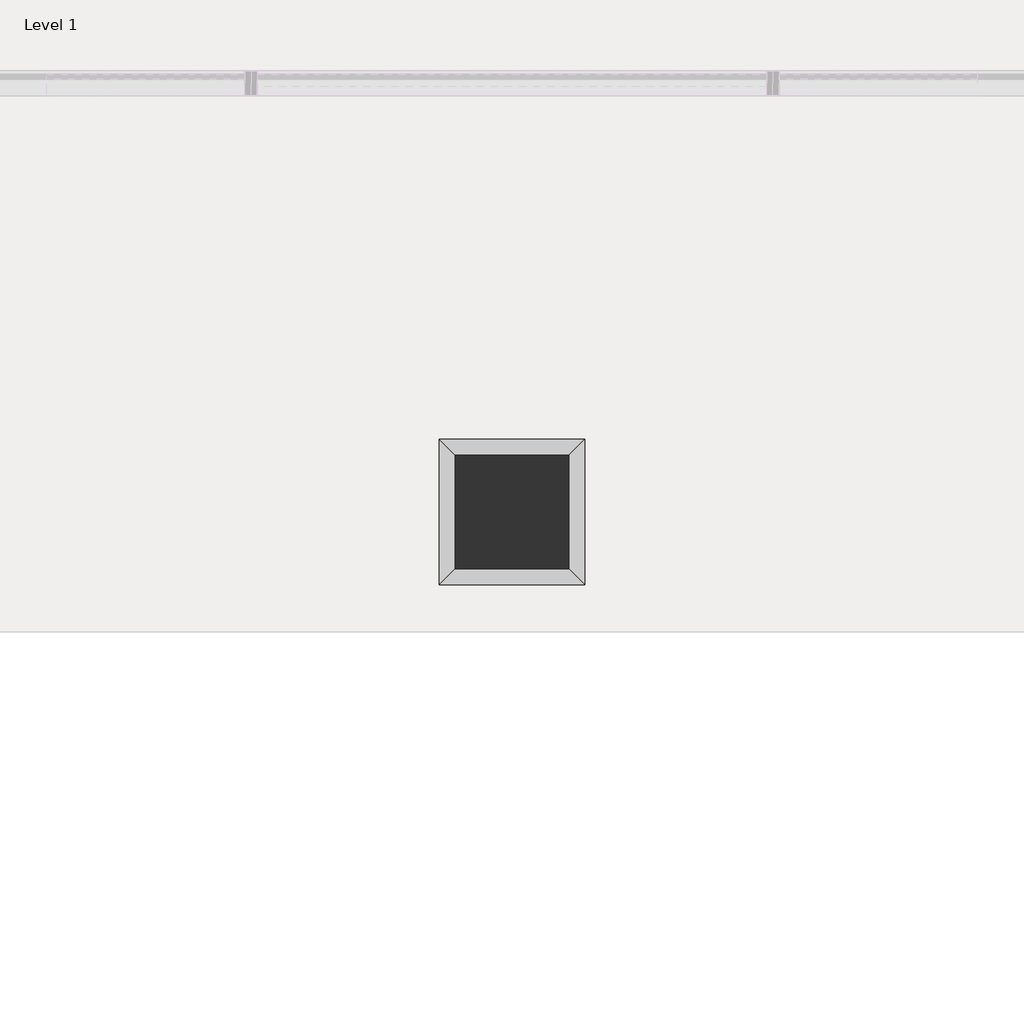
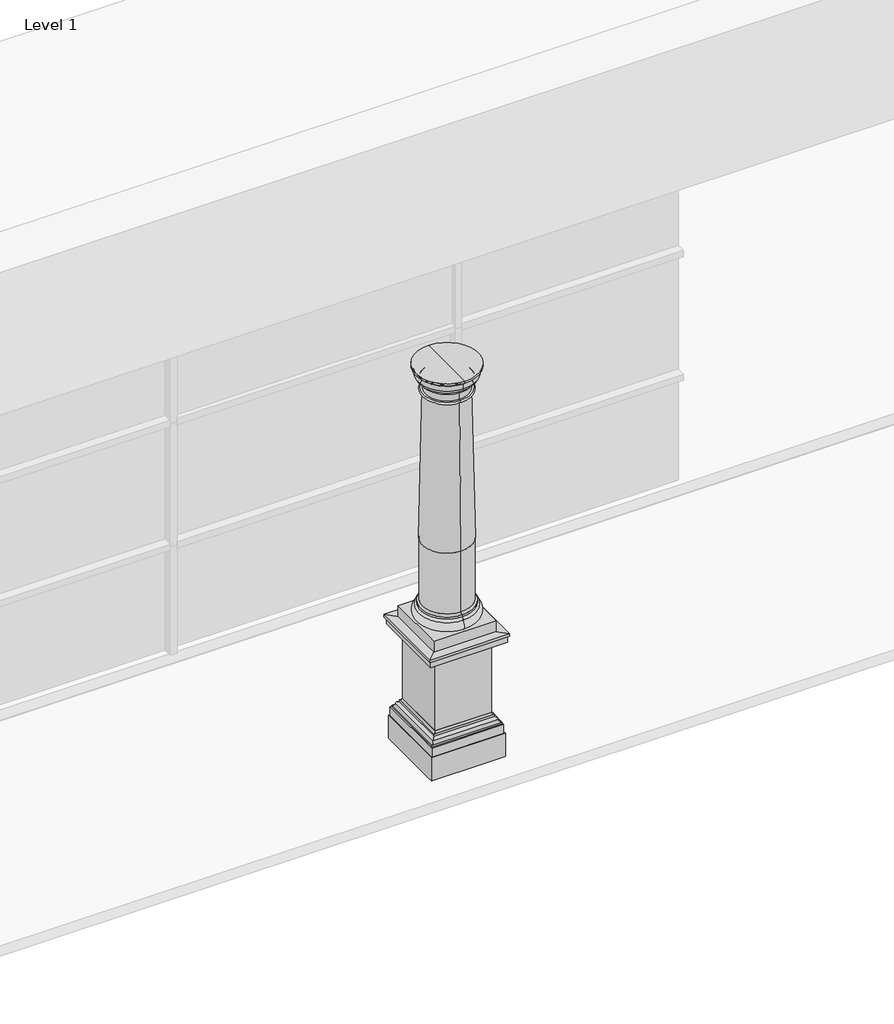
# One storey, part 5 of 8: 1 column.
"""IFC4 building model written with IfcOpenShell, lengths in millimetres."""

from ifc_helpers import new_model, si_unit, point, frame, origin, place, context, project, spatial, polyline, circle_curve, ellipse_curve, trimmed, outline, extrude, faceted_brep, element, save
from ifc_brep_helpers import plane_surface, cylinder_surface, revolved_surface, advanced_brep

model = new_model("IFC4")

# Units and contexts
model_context = context("Model", 3, world=origin())
ifc_project = project(units=[si_unit("LENGTHUNIT", "METRE", prefix="MILLI")], contexts=[model_context])

# Site, building, storey
site = spatial("IfcSite", under=ifc_project)
building = spatial("IfcBuilding", under=site)
storey = spatial("IfcBuildingStorey", under=building, Name="Level 1", Elevation=0.0)

# Column
placement = place(None, origin())
element("IfcColumn", 1, ObjectType="Doric Column : 16'  Height (10 2/3 x Dia.)", at=placement, inside=storey, context=model_context, shape_type="SolidModel", body=[
    extrude(outline(polyline([(5363.9045948, -1720.0769576), (5363.9045948, -2297.9269576), (4786.0545948, -2297.9269576), (4786.0545948, -1720.0769576), (5363.9045948, -1720.0769576)])), frame((0.0, 0.0, 1117.6), z_axis=(0.0, 0.0, 1.0), x_axis=(1.0, 0.0, 0.0)), (0.0, 0.0, 1.0), 107.95),
    faceted_brep([(4846.3795948, -2237.6019576, 1117.6), (4703.5045948, -2380.4769576, 1117.6), (5446.4545948, -2380.4769576, 1117.6), (5303.5795948, -2237.6019576, 1117.6), (4846.3795948, -2237.6019576, 1003.3), (5303.5795948, -2237.6019576, 1003.3), (4775.0966777, -2308.8848746, 1003.3), (5374.8625119, -2308.8848746, 1003.3), (4741.6045948, -2342.3769576, 1028.7), (5408.3545948, -2342.3769576, 1028.7), (4716.2045948, -2367.7769576, 1028.7), (5433.7545948, -2367.7769576, 1028.7), (4716.2045948, -2367.7769576, 1092.2), (5433.7545948, -2367.7769576, 1092.2), (4703.5045948, -2380.4769576, 1092.2), (5446.4545948, -2380.4769576, 1092.2), (5446.4545948, -1637.5269576, 1117.6), (5303.5795948, -1780.4019576, 1117.6), (5303.5795948, -1780.4019576, 1003.3), (5374.8625119, -1709.1190405, 1003.3), (5408.3545948, -1675.6269576, 1028.7), (5433.7545948, -1650.2269576, 1028.7), (5433.7545948, -1650.2269576, 1092.2), (5446.4545948, -1637.5269576, 1092.2), (4703.5045948, -1637.5269576, 1117.6), (4846.3795948, -1780.4019576, 1117.6), (4846.3795948, -1780.4019576, 1003.3), (4775.0966777, -1709.1190405, 1003.3), (4741.6045948, -1675.6269576, 1028.7), (4716.2045948, -1650.2269576, 1028.7), (4716.2045948, -1650.2269576, 1092.2), (4703.5045948, -1637.5269576, 1092.2)], [[[0, 1, 2, 3]], [[4, 0, 3, 5]], [[6, 4, 5, 7]], [[8, 6, 7, 9]], [[10, 8, 9, 11]], [[12, 10, 11, 13]], [[14, 12, 13, 15]], [[1, 14, 15, 2]], [[3, 2, 16, 17]], [[5, 3, 17, 18]], [[7, 5, 18, 19]], [[9, 7, 19, 20]], [[11, 9, 20, 21]], [[13, 11, 21, 22]], [[15, 13, 22, 23]], [[2, 15, 23, 16]], [[17, 16, 24, 25]], [[18, 17, 25, 26]], [[19, 18, 26, 27]], [[20, 19, 27, 28]], [[21, 20, 28, 29]], [[22, 21, 29, 30]], [[23, 22, 30, 31]], [[16, 23, 31, 24]], [[25, 24, 1, 0]], [[26, 25, 0, 4]], [[27, 26, 4, 6]], [[28, 27, 6, 8]], [[29, 28, 8, 10]], [[30, 29, 10, 12]], [[31, 30, 12, 14]], [[24, 31, 14, 1]]]),
    advanced_brep(
    [(5074.9795948, -2256.6519576, 1358.9), (5074.9795948, -1761.3519576, 1358.9), (5074.9795948, -1780.4019576, 1377.95), (5074.9795948, -2237.6019576, 1377.95), (5074.9795948, -1780.4019576, 1976.1708333), (5074.9795948, -2237.6019576, 1976.1708333), (5074.9795948, -2256.6519576, 1339.85), (5074.9795948, -1761.3519576, 1339.85), (5074.9795948, -2256.6519576, 1308.1), (5074.9795948, -1761.3519576, 1308.1), (5074.9795948, -2256.6519576, 1225.55), (5074.9795948, -1761.3519576, 1225.55), (5074.9795948, -2009.0019576, 1225.55), (5074.9795948, -1808.9769576, 3439.3125), (5074.9795948, -2209.0269576, 3439.3125), (5074.9795948, -2301.1019576, 3674.2625601), (5074.9795948, -1716.9019576, 3674.2625601), (5074.9795948, -1716.9019576, 3693.3125), (5074.9795948, -2301.1019576, 3693.3125), (5074.9795948, -2009.0019576, 3693.3125), (5074.9795948, -2282.0518974, 3655.2125), (5074.9795948, -1735.9520177, 3655.2125), (5074.9795948, -2278.8769576, 3655.2125), (5074.9795948, -1739.1269576, 3655.2125), (5074.9795948, -2278.8769576, 3604.4125), (5074.9795948, -1739.1269576, 3604.4125), (5074.9795948, -2272.5269576, 3604.4125), (5074.9795948, -1745.4769576, 3604.4125), (5074.9795948, -2228.0769576, 3559.9625), (5074.9795948, -1789.9269576, 3559.9625), (5074.9795948, -2228.0769576, 3540.9125), (5074.9795948, -1789.9269576, 3540.9125), (5074.9795948, -2209.0269576, 3540.9125), (5074.9795948, -1808.9769576, 3540.9125), (5074.9795948, -2209.0269576, 3458.3625), (5074.9795948, -1808.9769576, 3458.3625), (5074.9795948, -2228.0769576, 3458.3625), (5074.9795948, -1789.9269576, 3458.3625), (5074.9795948, -2228.0769576, 3439.3125), (5074.9795948, -1789.9269576, 3439.3125)],
    [
        (0, 1, circle_curve(frame((5074.9795948, -2009.0019576, 1358.9), z_axis=(0.0, 0.0, 1.0), x_axis=(0.0, 1.0, 0.0)), 247.65)),
        (1, 2, circle_curve(frame((5074.9795948, -1761.3519576, 1377.95), z_axis=(-1.0, 0.0, 0.0), x_axis=(0.0, -1.0, 0.0)), 19.05)),
        (2, 3, circle_curve(frame((5074.9795948, -2009.0019576, 1377.95), z_axis=(0.0, 0.0, -1.0), x_axis=(0.0, 1.0, 0.0)), 228.6)),
        (3, 0, circle_curve(frame((5074.9795948, -2256.6519576, 1377.95), z_axis=(-1.0, 0.0, 0.0), x_axis=(0.0, 1.0, 0.0)), 19.05)),
        (2, 4),
        (4, 5, circle_curve(frame((5074.9795948, -2009.0019576, 1976.1708333), z_axis=(0.0, 0.0, -1.0), x_axis=(0.0, 1.0, 0.0)), 228.6)),
        (5, 3),
        (2, 3, circle_curve(frame((5074.9795948, -2009.0019576, 1377.95), z_axis=(0.0, 0.0, 1.0), x_axis=(0.0, 1.0, 0.0)), 228.6)),
        (5, 4, circle_curve(frame((5074.9795948, -2009.0019576, 1976.1708333), z_axis=(0.0, 0.0, -1.0), x_axis=(0.0, 1.0, 0.0)), 228.6)),
        (1, 0, circle_curve(frame((5074.9795948, -2009.0019576, 1358.9), z_axis=(0.0, 0.0, 1.0), x_axis=(0.0, 1.0, 0.0)), 247.65)),
        (6, 7, circle_curve(frame((5074.9795948, -2009.0019576, 1339.85), z_axis=(0.0, 0.0, 1.0), x_axis=(0.0, 1.0, 0.0)), 247.65)),
        (7, 1),
        (0, 6),
        (7, 6, circle_curve(frame((5074.9795948, -2009.0019576, 1339.85), z_axis=(0.0, 0.0, 1.0), x_axis=(0.0, 1.0, 0.0)), 247.65)),
        (8, 9, circle_curve(frame((5074.9795948, -2009.0019576, 1308.1), z_axis=(0.0, 0.0, 1.0), x_axis=(0.0, 1.0, 0.0)), 247.65)),
        (9, 7, circle_curve(frame((5074.9795948, -1761.3519576, 1323.975), z_axis=(1.0, 0.0, 0.0), x_axis=(0.0, -1.0, 0.0)), 15.875)),
        (6, 8, circle_curve(frame((5074.9795948, -2256.6519576, 1323.975), z_axis=(1.0, 0.0, 0.0), x_axis=(0.0, 1.0, 0.0)), 15.875)),
        (9, 8, circle_curve(frame((5074.9795948, -2009.0019576, 1308.1), z_axis=(0.0, 0.0, 1.0), x_axis=(0.0, 1.0, 0.0)), 247.65)),
        (10, 11, circle_curve(frame((5074.9795948, -2009.0019576, 1225.55), z_axis=(0.0, 0.0, 1.0), x_axis=(0.0, 1.0, 0.0)), 247.65)),
        (11, 9, circle_curve(frame((5074.9795948, -1761.3519576, 1266.825), z_axis=(1.0, 0.0, 0.0), x_axis=(0.0, -1.0, 0.0)), 41.275)),
        (8, 10, circle_curve(frame((5074.9795948, -2256.6519576, 1266.825), z_axis=(1.0, 0.0, 0.0), x_axis=(0.0, 1.0, 0.0)), 41.275)),
        (11, 10, circle_curve(frame((5074.9795948, -2009.0019576, 1225.55), z_axis=(0.0, 0.0, 1.0), x_axis=(0.0, 1.0, 0.0)), 247.65)),
        (12, 11),
        (10, 12),
        (4, 13),
        (13, 14, circle_curve(frame((5074.9795948, -2009.0019576, 3439.3125), z_axis=(0.0, 0.0, -1.0), x_axis=(0.0, 1.0, 0.0)), 200.025)),
        (14, 5),
        (14, 13, circle_curve(frame((5074.9795948, -2009.0019576, 3439.3125), z_axis=(0.0, 0.0, -1.0), x_axis=(0.0, 1.0, 0.0)), 200.025)),
        (15, 16, circle_curve(frame((5074.9795948, -2009.0019576, 3674.2625601), z_axis=(0.0, 0.0, 1.0), x_axis=(0.0, 1.0, 0.0)), 292.1)),
        (16, 17),
        (17, 18, circle_curve(frame((5074.9795948, -2009.0019576, 3693.3125), z_axis=(0.0, 0.0, -1.0), x_axis=(0.0, 1.0, 0.0)), 292.1)),
        (18, 15),
        (17, 19),
        (19, 18),
        (17, 18, circle_curve(frame((5074.9795948, -2009.0019576, 3693.3125), z_axis=(0.0, 0.0, 1.0), x_axis=(0.0, 1.0, 0.0)), 292.1)),
        (16, 15, circle_curve(frame((5074.9795948, -2009.0019576, 3674.2625601), z_axis=(0.0, 0.0, 1.0), x_axis=(0.0, 1.0, 0.0)), 292.1)),
        (20, 21, circle_curve(frame((5074.9795948, -2009.0019576, 3655.2125), z_axis=(0.0, 0.0, 1.0), x_axis=(0.0, 1.0, 0.0)), 273.0499399)),
        (21, 16, circle_curve(frame((5074.9795948, -1716.9019576, 3655.2125), z_axis=(-1.0, 0.0, 0.0), x_axis=(0.0, -1.0, 0.0)), 19.0500601)),
        (15, 20, circle_curve(frame((5074.9795948, -2301.1019576, 3655.2125), z_axis=(-1.0, 0.0, 0.0), x_axis=(0.0, 1.0, 0.0)), 19.0500601)),
        (21, 20, circle_curve(frame((5074.9795948, -2009.0019576, 3655.2125), z_axis=(0.0, 0.0, 1.0), x_axis=(0.0, 1.0, 0.0)), 273.0499399)),
        (22, 23, circle_curve(frame((5074.9795948, -2009.0019576, 3655.2125), z_axis=(0.0, 0.0, 1.0), x_axis=(0.0, 1.0, 0.0)), 269.875)),
        (23, 21),
        (20, 22),
        (23, 22, circle_curve(frame((5074.9795948, -2009.0019576, 3655.2125), z_axis=(0.0, 0.0, 1.0), x_axis=(0.0, 1.0, 0.0)), 269.875)),
        (24, 25, circle_curve(frame((5074.9795948, -2009.0019576, 3604.4125), z_axis=(0.0, 0.0, 1.0), x_axis=(0.0, 1.0, 0.0)), 269.875)),
        (25, 23),
        (22, 24),
        (25, 24, circle_curve(frame((5074.9795948, -2009.0019576, 3604.4125), z_axis=(0.0, 0.0, 1.0), x_axis=(0.0, 1.0, 0.0)), 269.875)),
        (26, 27, circle_curve(frame((5074.9795948, -2009.0019576, 3604.4125), z_axis=(0.0, 0.0, 1.0), x_axis=(0.0, 1.0, 0.0)), 263.525)),
        (27, 25),
        (24, 26),
        (27, 26, circle_curve(frame((5074.9795948, -2009.0019576, 3604.4125), z_axis=(0.0, 0.0, 1.0), x_axis=(0.0, 1.0, 0.0)), 263.525)),
        (28, 29, circle_curve(frame((5074.9795948, -2009.0019576, 3559.9625), z_axis=(0.0, 0.0, 1.0), x_axis=(0.0, 1.0, 0.0)), 219.075)),
        (29, 27, circle_curve(frame((5074.9795948, -1789.9269576, 3604.4125), z_axis=(1.0, 0.0, 0.0), x_axis=(0.0, -1.0, 0.0)), 44.45)),
        (26, 28, circle_curve(frame((5074.9795948, -2228.0769576, 3604.4125), z_axis=(1.0, 0.0, 0.0), x_axis=(0.0, 1.0, 0.0)), 44.45)),
        (29, 28, circle_curve(frame((5074.9795948, -2009.0019576, 3559.9625), z_axis=(0.0, 0.0, 1.0), x_axis=(0.0, 1.0, 0.0)), 219.075)),
        (30, 31, circle_curve(frame((5074.9795948, -2009.0019576, 3540.9125), z_axis=(0.0, 0.0, 1.0), x_axis=(0.0, 1.0, 0.0)), 219.075)),
        (31, 29, circle_curve(frame((5074.9795948, -1789.9269576, 3550.4375), z_axis=(1.0, 0.0, 0.0), x_axis=(0.0, -1.0, 0.0)), 9.525)),
        (28, 30, circle_curve(frame((5074.9795948, -2228.0769576, 3550.4375), z_axis=(1.0, 0.0, 0.0), x_axis=(0.0, 1.0, 0.0)), 9.525)),
        (31, 30, circle_curve(frame((5074.9795948, -2009.0019576, 3540.9125), z_axis=(0.0, 0.0, 1.0), x_axis=(0.0, 1.0, 0.0)), 219.075)),
        (32, 33, circle_curve(frame((5074.9795948, -2009.0019576, 3540.9125), z_axis=(0.0, 0.0, 1.0), x_axis=(0.0, 1.0, 0.0)), 200.025)),
        (33, 31),
        (30, 32),
        (33, 32, circle_curve(frame((5074.9795948, -2009.0019576, 3540.9125), z_axis=(0.0, 0.0, 1.0), x_axis=(0.0, 1.0, 0.0)), 200.025)),
        (34, 35, circle_curve(frame((5074.9795948, -2009.0019576, 3458.3625), z_axis=(0.0, 0.0, 1.0), x_axis=(0.0, 1.0, 0.0)), 200.025)),
        (35, 33),
        (32, 34),
        (35, 34, circle_curve(frame((5074.9795948, -2009.0019576, 3458.3625), z_axis=(0.0, 0.0, 1.0), x_axis=(0.0, 1.0, 0.0)), 200.025)),
        (36, 37, circle_curve(frame((5074.9795948, -2009.0019576, 3458.3625), z_axis=(0.0, 0.0, 1.0), x_axis=(0.0, 1.0, 0.0)), 219.075)),
        (37, 35),
        (34, 36),
        (37, 36, circle_curve(frame((5074.9795948, -2009.0019576, 3458.3625), z_axis=(0.0, 0.0, 1.0), x_axis=(0.0, 1.0, 0.0)), 219.075)),
        (38, 39, circle_curve(frame((5074.9795948, -2009.0019576, 3439.3125), z_axis=(0.0, 0.0, 1.0), x_axis=(0.0, 1.0, 0.0)), 219.075)),
        (39, 37, circle_curve(frame((5074.9795948, -1789.9269576, 3448.8375), z_axis=(1.0, 0.0, 0.0), x_axis=(0.0, -1.0, 0.0)), 9.525)),
        (36, 38, circle_curve(frame((5074.9795948, -2228.0769576, 3448.8375), z_axis=(1.0, 0.0, 0.0), x_axis=(0.0, 1.0, 0.0)), 9.525)),
        (39, 38, circle_curve(frame((5074.9795948, -2009.0019576, 3439.3125), z_axis=(0.0, 0.0, 1.0), x_axis=(0.0, 1.0, 0.0)), 219.075)),
        (13, 39),
        (38, 14),
    ],
    [
        revolved_surface(trimmed(ellipse_curve(frame((5074.9795948, -1761.3519576, 1377.95), z_axis=(1.0, 0.0, 0.0), x_axis=(0.0, -1.0, 0.0)), 19.05, 19.05), [point((5074.9795948, -1780.4019576, 1377.95))], [point((5074.9795948, -1761.3519576, 1358.9))], True, "CARTESIAN"), (5074.9795948, -2009.0019576, 3693.3125), (0.0, 0.0, -1.0)),
        cylinder_surface(frame((5074.9795948, -2009.0019576, 3693.3125), z_axis=(0.0, 0.0, -1.0), x_axis=(0.0, 1.0, 0.0)), 228.6),
        cylinder_surface(frame((5074.9795948, -2009.0019576, 3693.3125), z_axis=(0.0, 0.0, -1.0), x_axis=(0.0, 1.0, 0.0)), 247.65),
        revolved_surface(trimmed(ellipse_curve(frame((5074.9795948, -1761.3519576, 1323.975), z_axis=(-1.0, 0.0, 0.0), x_axis=(0.0, -1.0, 0.0)), 15.875, 15.875), [point((5074.9795948, -1761.3519576, 1339.85))], [point((5074.9795948, -1761.3519576, 1308.1))], True, "CARTESIAN"), (5074.9795948, -2009.0019576, 3693.3125), (0.0, 0.0, -1.0)),
        revolved_surface(trimmed(ellipse_curve(frame((5074.9795948, -1761.3519576, 1266.825), z_axis=(-1.0, 0.0, 0.0), x_axis=(0.0, -1.0, 0.0)), 41.275, 41.275), [point((5074.9795948, -1761.3519576, 1308.1))], [point((5074.9795948, -1761.3519576, 1225.55))], True, "CARTESIAN"), (5074.9795948, -2009.0019576, 3693.3125), (0.0, 0.0, -1.0)),
        plane_surface(frame((5074.9795948, -2009.0019576, 1225.55), z_axis=(0.0, 0.0, -1.0), x_axis=(0.0, 1.0, 0.0))),
        revolved_surface(polyline([(5074.9795948, -1808.9769576, 3439.3125), (5074.9795948, -1780.4019576, 1976.1708333)]), (5074.9795948, -2009.0019576, 3693.3125), (0.0, 0.0, -1.0)),
        cylinder_surface(frame((5074.9795948, -2009.0019576, 3693.3125), z_axis=(0.0, 0.0, -1.0), x_axis=(0.0, 1.0, 0.0)), 292.1),
        plane_surface(frame((5074.9795948, -2009.0019576, 3693.3125), z_axis=(0.0, 0.0, 1.0), x_axis=(0.0, 1.0, 0.0))),
        revolved_surface(trimmed(ellipse_curve(frame((5074.9795948, -1716.9019576, 3655.2125), z_axis=(1.0, 0.0, 0.0), x_axis=(0.0, -1.0, 0.0)), 19.0500601, 19.0500601), [point((5074.9795948, -1716.9019576, 3674.2625601))], [point((5074.9795948, -1735.9520177, 3655.2125))], True, "CARTESIAN"), (5074.9795948, -2009.0019576, 3693.3125), (0.0, 0.0, -1.0)),
        plane_surface(frame((5074.9795948, -2009.0019576, 3655.2125), z_axis=(0.0, 0.0, -1.0), x_axis=(0.0, 1.0, 0.0))),
        cylinder_surface(frame((5074.9795948, -2009.0019576, 3693.3125), z_axis=(0.0, 0.0, -1.0), x_axis=(0.0, 1.0, 0.0)), 269.875),
        plane_surface(frame((5074.9795948, -2009.0019576, 3604.4125), z_axis=(0.0, 0.0, -1.0), x_axis=(0.0, 1.0, 0.0))),
        revolved_surface(trimmed(ellipse_curve(frame((5074.9795948, -1789.9269576, 3604.4125), z_axis=(-1.0, 0.0, 0.0), x_axis=(0.0, -1.0, 0.0)), 44.45, 44.45), [point((5074.9795948, -1745.4769576, 3604.4125))], [point((5074.9795948, -1789.9269576, 3559.9625))], True, "CARTESIAN"), (5074.9795948, -2009.0019576, 3693.3125), (0.0, 0.0, -1.0)),
        revolved_surface(trimmed(ellipse_curve(frame((5074.9795948, -1789.9269576, 3550.4375), z_axis=(-1.0, 0.0, 0.0), x_axis=(0.0, -1.0, 0.0)), 9.525, 9.525), [point((5074.9795948, -1789.9269576, 3559.9625))], [point((5074.9795948, -1789.9269576, 3540.9125))], True, "CARTESIAN"), (5074.9795948, -2009.0019576, 3693.3125), (0.0, 0.0, -1.0)),
        plane_surface(frame((5074.9795948, -2009.0019576, 3540.9125), z_axis=(0.0, 0.0, -1.0), x_axis=(0.0, 1.0, 0.0))),
        cylinder_surface(frame((5074.9795948, -2009.0019576, 3693.3125), z_axis=(0.0, 0.0, -1.0), x_axis=(0.0, 1.0, 0.0)), 200.025),
        plane_surface(frame((5074.9795948, -2009.0019576, 3458.3625), z_axis=(0.0, 0.0, 1.0), x_axis=(0.0, 1.0, 0.0))),
        revolved_surface(trimmed(ellipse_curve(frame((5074.9795948, -1789.9269576, 3448.8375), z_axis=(-1.0, 0.0, 0.0), x_axis=(0.0, -1.0, 0.0)), 9.525, 9.525), [point((5074.9795948, -1789.9269576, 3458.3625))], [point((5074.9795948, -1789.9269576, 3439.3125))], True, "CARTESIAN"), (5074.9795948, -2009.0019576, 3693.3125), (0.0, 0.0, -1.0)),
        plane_surface(frame((5074.9795948, -2009.0019576, 3439.3125), z_axis=(0.0, 0.0, -1.0), x_axis=(0.0, 1.0, 0.0))),
    ],
    [
        (0, [[1, 2, 3, 4]]),
        (1, [[-3, 5, 6, 7]]),
        (1, [[8, -7, 9, -5]]),
        (0, [[10, -4, -8, -2]]),
        (2, [[11, 12, -1, 13]]),
        (2, [[14, -13, -10, -12]]),
        (3, [[15, 16, -11, 17]]),
        (3, [[18, -17, -14, -16]]),
        (4, [[19, 20, -15, 21]]),
        (4, [[22, -21, -18, -20]]),
        (5, [[23, -19, 24]]),
        (5, [[-24, -22, -23]]),
        (6, [[-6, 25, 26, 27]]),
        (6, [[-9, -27, 28, -25]]),
        (7, [[29, 30, 31, 32]]),
        (8, [[-31, 33, 34]]),
        (8, [[35, -34, -33]]),
        (7, [[36, -32, -35, -30]]),
        (9, [[37, 38, -29, 39]]),
        (9, [[40, -39, -36, -38]]),
        (10, [[41, 42, -37, 43]]),
        (10, [[44, -43, -40, -42]]),
        (11, [[45, 46, -41, 47]]),
        (11, [[48, -47, -44, -46]]),
        (12, [[49, 50, -45, 51]]),
        (12, [[52, -51, -48, -50]]),
        (13, [[53, 54, -49, 55]]),
        (13, [[56, -55, -52, -54]]),
        (14, [[57, 58, -53, 59]]),
        (14, [[60, -59, -56, -58]]),
        (15, [[61, 62, -57, 63]]),
        (15, [[64, -63, -60, -62]]),
        (16, [[65, 66, -61, 67]]),
        (16, [[68, -67, -64, -66]]),
        (17, [[69, 70, -65, 71]]),
        (17, [[72, -71, -68, -70]]),
        (18, [[73, 74, -69, 75]]),
        (18, [[76, -75, -72, -74]]),
        (19, [[-26, 77, -73, 78]]),
        (19, [[-28, -78, -76, -77]]),
    ],
),
    advanced_brep(
    [(5420.4247411, -1663.5568112, -101.6), (5420.4247411, -1663.5568112, 127.0), (5420.4247411, -2354.4471039, 127.0), (5420.4247411, -2354.4471039, -101.6), (5303.5795948, -1780.4019576, -101.6), (5303.5795948, -2237.6019576, -101.6), (5303.5795948, -1780.4019576, 317.5), (5303.5795948, -2237.6019576, 317.5), (5337.8747411, -1746.1068112, 317.5), (5337.8747411, -2271.8971039, 317.5), (5356.9247411, -1727.0568112, 298.45), (5356.9247411, -2290.9471039, 298.45), (5356.9247411, -1727.0568112, 279.4), (5356.9247411, -2290.9471039, 279.4), (5379.1497411, -1704.8318112, 257.175), (5379.1497411, -2313.1721039, 257.175), (5401.3747411, -1682.6068112, 234.95), (5401.3747411, -2335.3971039, 234.95), (5401.3747411, -1682.6068112, 215.9), (5401.3747411, -2335.3971039, 215.9), (5410.8997411, -1673.0818112, 215.9), (5410.8997411, -2344.9221039, 215.9), (5410.8997411, -1673.0818112, 127.0), (5410.8997411, -2344.9221039, 127.0), (4729.5344485, -2354.4471039, 127.0), (4729.5344485, -2354.4471039, -101.6), (4846.3795948, -2237.6019576, -101.6), (4846.3795948, -2237.6019576, 317.5), (4812.0844485, -2271.8971039, 317.5), (4793.0344485, -2290.9471039, 298.45), (4793.0344485, -2290.9471039, 279.4), (4770.8094485, -2313.1721039, 257.175), (4748.5844485, -2335.3971039, 234.95), (4748.5844485, -2335.3971039, 215.9), (4739.0594485, -2344.9221039, 215.9), (4739.0594485, -2344.9221039, 127.0), (4729.5344485, -1663.5568112, 127.0), (4729.5344485, -1663.5568112, -101.6), (4846.3795948, -1780.4019576, -101.6), (4846.3795948, -1780.4019576, 317.5), (4812.0844485, -1746.1068112, 317.5), (4793.0344485, -1727.0568112, 298.45), (4793.0344485, -1727.0568112, 279.4), (4770.8094485, -1704.8318112, 257.175), (4748.5844485, -1682.6068112, 234.95), (4748.5844485, -1682.6068112, 215.9), (4739.0594485, -1673.0818112, 215.9), (4739.0594485, -1673.0818112, 127.0)],
    [
        (0, 1),
        (1, 2),
        (2, 3),
        (3, 0),
        (4, 0),
        (3, 5),
        (5, 4),
        (6, 4),
        (5, 7),
        (7, 6),
        (8, 6),
        (7, 9),
        (9, 8),
        (10, 8, ellipse_curve(frame((5356.9247411, -1727.0568112, 317.5), z_axis=(-0.7071067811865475, 0.7071067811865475, 0.0), x_axis=(-0.7071067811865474, -0.7071067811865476, 0.0)), 26.9407684, 19.05)),
        (9, 11, ellipse_curve(frame((5356.9247411, -2290.9471039, 317.5), z_axis=(-0.7071067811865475, -0.7071067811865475, 0.0), x_axis=(0.7071067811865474, -0.7071067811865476, 0.0)), 26.9407684, 19.05)),
        (11, 10),
        (12, 10),
        (11, 13),
        (13, 12),
        (14, 12, ellipse_curve(frame((5356.9247411, -1727.0568112, 257.175), z_axis=(0.7071067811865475, -0.7071067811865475, 0.0), x_axis=(0.7071067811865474, 0.7071067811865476, 0.0)), 31.4308964, 22.225)),
        (13, 15, ellipse_curve(frame((5356.9247411, -2290.9471039, 257.175), z_axis=(0.7071067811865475, 0.7071067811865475, 0.0), x_axis=(-0.7071067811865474, 0.7071067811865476, 0.0)), 31.4308964, 22.225)),
        (15, 14),
        (16, 14, ellipse_curve(frame((5401.3747411, -1682.6068112, 257.175), z_axis=(-0.7071067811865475, 0.7071067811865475, 0.0), x_axis=(-0.7071067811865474, -0.7071067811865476, 0.0)), 31.4308964, 22.225)),
        (15, 17, ellipse_curve(frame((5401.3747411, -2335.3971039, 257.175), z_axis=(-0.7071067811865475, -0.7071067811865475, 0.0), x_axis=(0.7071067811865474, -0.7071067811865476, 0.0)), 31.4308964, 22.225)),
        (17, 16),
        (18, 16),
        (17, 19),
        (19, 18),
        (20, 18),
        (19, 21),
        (21, 20),
        (22, 20),
        (21, 23),
        (23, 22),
        (1, 22),
        (23, 2),
        (2, 24),
        (24, 25),
        (25, 3),
        (25, 26),
        (26, 5),
        (26, 27),
        (27, 7),
        (27, 28),
        (28, 9),
        (28, 29, ellipse_curve(frame((4793.0344485, -2290.9471039, 317.5), z_axis=(-0.7071067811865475, 0.7071067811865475, 0.0), x_axis=(-0.7071067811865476, -0.7071067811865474, 0.0)), 26.9407684, 19.05)),
        (29, 11),
        (29, 30),
        (30, 13),
        (30, 31, ellipse_curve(frame((4793.0344485, -2290.9471039, 257.175), z_axis=(0.7071067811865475, -0.7071067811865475, 0.0), x_axis=(0.7071067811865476, 0.7071067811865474, 0.0)), 31.4308964, 22.225)),
        (31, 15),
        (31, 32, ellipse_curve(frame((4748.5844485, -2335.3971039, 257.175), z_axis=(-0.7071067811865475, 0.7071067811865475, 0.0), x_axis=(-0.7071067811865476, -0.7071067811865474, 0.0)), 31.4308964, 22.225)),
        (32, 17),
        (32, 33),
        (33, 19),
        (33, 34),
        (34, 21),
        (34, 35),
        (35, 23),
        (35, 24),
        (24, 36),
        (36, 37),
        (37, 25),
        (37, 38),
        (38, 26),
        (38, 39),
        (39, 27),
        (39, 40),
        (40, 28),
        (40, 41, ellipse_curve(frame((4793.0344485, -1727.0568112, 317.5), z_axis=(0.7071067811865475, 0.7071067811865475, 0.0), x_axis=(-0.7071067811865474, 0.7071067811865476, 0.0)), 26.9407684, 19.05)),
        (41, 29),
        (41, 42),
        (42, 30),
        (42, 43, ellipse_curve(frame((4793.0344485, -1727.0568112, 257.175), z_axis=(-0.7071067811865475, -0.7071067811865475, 0.0), x_axis=(0.7071067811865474, -0.7071067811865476, 0.0)), 31.4308964, 22.225)),
        (43, 31),
        (43, 44, ellipse_curve(frame((4748.5844485, -1682.6068112, 257.175), z_axis=(0.7071067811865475, 0.7071067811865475, 0.0), x_axis=(-0.7071067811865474, 0.7071067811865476, 0.0)), 31.4308964, 22.225)),
        (44, 32),
        (44, 45),
        (45, 33),
        (45, 46),
        (46, 34),
        (46, 47),
        (47, 35),
        (47, 36),
        (36, 1),
        (0, 37),
        (4, 38),
        (6, 39),
        (8, 40),
        (10, 41),
        (12, 42),
        (14, 43),
        (16, 44),
        (18, 45),
        (20, 46),
        (22, 47),
    ],
    [
        plane_surface(frame((5420.4247411, -1663.5568112, 127.0), z_axis=(1.0, 0.0, 0.0), x_axis=(0.0, -1.0, 0.0))),
        plane_surface(frame((5420.4247411, -1663.5568112, -101.6), z_axis=(0.0, 0.0, -1.0), x_axis=(0.0, -1.0, 0.0))),
        plane_surface(frame((5303.5795948, -1780.4019576, -101.6), z_axis=(-1.0, 0.0, 0.0), x_axis=(0.0, -1.0, 0.0))),
        plane_surface(frame((5303.5795948, -1780.4019576, 317.5), z_axis=(0.0, 0.0, 1.0), x_axis=(0.0, -1.0, 0.0))),
        revolved_surface(polyline([(5375.9747411, -2309.9971039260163, 317.5), (5375.9747411, -1708.0068111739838, 317.5)]), (5356.9247411, -1650.5418844, 317.5), (0.0, -1.0, 0.0)),
        plane_surface(frame((5356.9247411, -1727.0568112, 298.45), z_axis=(1.0, 0.0, 0.0), x_axis=(0.0, -1.0, 0.0))),
        cylinder_surface(frame((5356.9247411, -1650.5418844, 257.175), z_axis=(0.0, 1.0, 0.0), x_axis=(1.0, 0.0, 0.0)), 22.225),
        revolved_surface(polyline([(5423.599741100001, -2357.622103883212, 257.175), (5423.599741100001, -1660.3818112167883, 257.175)]), (5401.3747411, -1650.5418844, 257.175), (0.0, -1.0, 0.0)),
        plane_surface(frame((5401.3747411, -1682.6068112, 234.95), z_axis=(1.0, 0.0, 0.0), x_axis=(0.0, -1.0, 0.0))),
        plane_surface(frame((5401.3747411, -1682.6068112, 215.9), z_axis=(0.0, 0.0, 1.0), x_axis=(0.0, -1.0, 0.0))),
        plane_surface(frame((5410.8997411, -1673.0818112, 215.9), z_axis=(1.0, 0.0, 0.0), x_axis=(0.0, -1.0, 0.0))),
        plane_surface(frame((5410.8997411, -1673.0818112, 127.0), z_axis=(0.0, 0.0, 1.0), x_axis=(0.0, -1.0, 0.0))),
        plane_surface(frame((5420.4247411, -2354.4471039, 127.0), z_axis=(0.0, -1.0, 0.0), x_axis=(-1.0, 0.0, 0.0))),
        plane_surface(frame((5420.4247411, -2354.4471039, -101.6), z_axis=(0.0, 0.0, -1.0), x_axis=(-1.0, 0.0, 0.0))),
        plane_surface(frame((5303.5795948, -2237.6019576, -101.6), z_axis=(0.0, 1.0, 0.0), x_axis=(-1.0, 0.0, 0.0))),
        plane_surface(frame((5303.5795948, -2237.6019576, 317.5), z_axis=(0.0, 0.0, 1.0), x_axis=(-1.0, 0.0, 0.0))),
        revolved_surface(polyline([(4773.984448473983, -2309.9971039, 317.5), (5375.974741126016, -2309.9971039, 317.5)]), (5433.439668, -2290.9471039, 317.5), (-1.0, 0.0, 0.0)),
        plane_surface(frame((5356.9247411, -2290.9471039, 298.45), z_axis=(0.0, -1.0, 0.0), x_axis=(-1.0, 0.0, 0.0))),
        cylinder_surface(frame((5433.439668, -2290.9471039, 257.175), z_axis=(1.0, 0.0, 0.0), x_axis=(0.0, -1.0, 0.0)), 22.225),
        revolved_surface(polyline([(4726.359448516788, -2357.6221038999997, 257.175), (5423.599741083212, -2357.6221038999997, 257.175)]), (5433.439668, -2335.3971039, 257.175), (-1.0, 0.0, 0.0)),
        plane_surface(frame((5401.3747411, -2335.3971039, 234.95), z_axis=(0.0, -1.0, 0.0), x_axis=(-1.0, 0.0, 0.0))),
        plane_surface(frame((5401.3747411, -2335.3971039, 215.9), z_axis=(0.0, 0.0, 1.0), x_axis=(-1.0, 0.0, 0.0))),
        plane_surface(frame((5410.8997411, -2344.9221039, 215.9), z_axis=(0.0, -1.0, 0.0), x_axis=(-1.0, 0.0, 0.0))),
        plane_surface(frame((5410.8997411, -2344.9221039, 127.0), z_axis=(0.0, 0.0, 1.0), x_axis=(-1.0, 0.0, 0.0))),
        plane_surface(frame((4729.5344485, -2354.4471039, 127.0), z_axis=(-1.0, 0.0, 0.0), x_axis=(0.0, 1.0, 0.0))),
        plane_surface(frame((4729.5344485, -2354.4471039, -101.6), z_axis=(0.0, 0.0, -1.0), x_axis=(0.0, 1.0, 0.0))),
        plane_surface(frame((4846.3795948, -2237.6019576, -101.6), z_axis=(1.0, 0.0, 0.0), x_axis=(0.0, 1.0, 0.0))),
        plane_surface(frame((4846.3795948, -2237.6019576, 317.5), z_axis=(0.0, 0.0, 1.0), x_axis=(0.0, 1.0, 0.0))),
        revolved_surface(polyline([(4773.984448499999, -1708.0068111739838, 317.5), (4773.984448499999, -2309.9971039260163, 317.5)]), (4793.0344485, -2367.4620307, 317.5), (0.0, 1.0, 0.0)),
        plane_surface(frame((4793.0344485, -2290.9471039, 298.45), z_axis=(-1.0, 0.0, 0.0), x_axis=(0.0, 1.0, 0.0))),
        cylinder_surface(frame((4793.0344485, -2367.4620307, 257.175), z_axis=(0.0, -1.0, 0.0), x_axis=(-1.0, 0.0, 0.0)), 22.225),
        revolved_surface(polyline([(4726.359448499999, -1660.3818112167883, 257.175), (4726.359448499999, -2357.622103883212, 257.175)]), (4748.5844485, -2367.4620307, 257.175), (0.0, 1.0, 0.0)),
        plane_surface(frame((4748.5844485, -2335.3971039, 234.95), z_axis=(-1.0, 0.0, 0.0), x_axis=(0.0, 1.0, 0.0))),
        plane_surface(frame((4748.5844485, -2335.3971039, 215.9), z_axis=(0.0, 0.0, 1.0), x_axis=(0.0, 1.0, 0.0))),
        plane_surface(frame((4739.0594485, -2344.9221039, 215.9), z_axis=(-1.0, 0.0, 0.0), x_axis=(0.0, 1.0, 0.0))),
        plane_surface(frame((4739.0594485, -2344.9221039, 127.0), z_axis=(0.0, 0.0, 1.0), x_axis=(0.0, 1.0, 0.0))),
        plane_surface(frame((4729.5344485, -1663.5568112, 127.0), z_axis=(0.0, 1.0, 0.0), x_axis=(1.0, 0.0, 0.0))),
        plane_surface(frame((4729.5344485, -1663.5568112, -101.6), z_axis=(0.0, 0.0, -1.0), x_axis=(1.0, 0.0, 0.0))),
        plane_surface(frame((4846.3795948, -1780.4019576, -101.6), z_axis=(0.0, -1.0, 0.0), x_axis=(1.0, 0.0, 0.0))),
        plane_surface(frame((4846.3795948, -1780.4019576, 317.5), z_axis=(0.0, 0.0, 1.0), x_axis=(1.0, 0.0, 0.0))),
        revolved_surface(polyline([(5375.974741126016, -1708.0068112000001, 317.5), (4773.984448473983, -1708.0068112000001, 317.5)]), (4716.5195217, -1727.0568112, 317.5), (1.0, 0.0, 0.0)),
        plane_surface(frame((4793.0344485, -1727.0568112, 298.45), z_axis=(0.0, 1.0, 0.0), x_axis=(1.0, 0.0, 0.0))),
        cylinder_surface(frame((4716.5195217, -1727.0568112, 257.175), z_axis=(-1.0, 0.0, 0.0), x_axis=(0.0, 1.0, 0.0)), 22.225),
        revolved_surface(polyline([(5423.599741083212, -1660.3818112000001, 257.175), (4726.359448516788, -1660.3818112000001, 257.175)]), (4716.5195217, -1682.6068112, 257.175), (1.0, 0.0, 0.0)),
        plane_surface(frame((4748.5844485, -1682.6068112, 234.95), z_axis=(0.0, 1.0, 0.0), x_axis=(1.0, 0.0, 0.0))),
        plane_surface(frame((4748.5844485, -1682.6068112, 215.9), z_axis=(0.0, 0.0, 1.0), x_axis=(1.0, 0.0, 0.0))),
        plane_surface(frame((4739.0594485, -1673.0818112, 215.9), z_axis=(0.0, 1.0, 0.0), x_axis=(1.0, 0.0, 0.0))),
        plane_surface(frame((4739.0594485, -1673.0818112, 127.0), z_axis=(0.0, 0.0, 1.0), x_axis=(1.0, 0.0, 0.0))),
    ],
    [
        (0, [[1, 2, 3, 4]]),
        (1, [[5, -4, 6, 7]]),
        (2, [[8, -7, 9, 10]]),
        (3, [[11, -10, 12, 13]]),
        (4, [[14, -13, 15, 16]]),
        (5, [[17, -16, 18, 19]]),
        (6, [[20, -19, 21, 22]]),
        (7, [[23, -22, 24, 25]]),
        (8, [[26, -25, 27, 28]]),
        (9, [[29, -28, 30, 31]]),
        (10, [[32, -31, 33, 34]]),
        (11, [[35, -34, 36, -2]]),
        (12, [[-3, 37, 38, 39]]),
        (13, [[-6, -39, 40, 41]]),
        (14, [[-9, -41, 42, 43]]),
        (15, [[-12, -43, 44, 45]]),
        (16, [[-15, -45, 46, 47]]),
        (17, [[-18, -47, 48, 49]]),
        (18, [[-21, -49, 50, 51]]),
        (19, [[-24, -51, 52, 53]]),
        (20, [[-27, -53, 54, 55]]),
        (21, [[-30, -55, 56, 57]]),
        (22, [[-33, -57, 58, 59]]),
        (23, [[-36, -59, 60, -37]]),
        (24, [[-38, 61, 62, 63]]),
        (25, [[-40, -63, 64, 65]]),
        (26, [[-42, -65, 66, 67]]),
        (27, [[-44, -67, 68, 69]]),
        (28, [[-46, -69, 70, 71]]),
        (29, [[-48, -71, 72, 73]]),
        (30, [[-50, -73, 74, 75]]),
        (31, [[-52, -75, 76, 77]]),
        (32, [[-54, -77, 78, 79]]),
        (33, [[-56, -79, 80, 81]]),
        (34, [[-58, -81, 82, 83]]),
        (35, [[-60, -83, 84, -61]]),
        (36, [[-62, 85, -1, 86]]),
        (37, [[-64, -86, -5, 87]]),
        (38, [[-66, -87, -8, 88]]),
        (39, [[-68, -88, -11, 89]]),
        (40, [[-70, -89, -14, 90]]),
        (41, [[-72, -90, -17, 91]]),
        (42, [[-74, -91, -20, 92]]),
        (43, [[-76, -92, -23, 93]]),
        (44, [[-78, -93, -26, 94]]),
        (45, [[-80, -94, -29, 95]]),
        (46, [[-82, -95, -32, 96]]),
        (47, [[-84, -96, -35, -85]]),
    ],
),
    extrude(outline(polyline([(5338.5045948, -1745.4769576), (5338.5045948, -2272.5269576), (4811.4545948, -2272.5269576), (4811.4545948, -1745.4769576), (5338.5045948, -1745.4769576)])), frame((0.0, 0.0, 317.5), z_axis=(0.0, 0.0, 1.0), x_axis=(1.0, 0.0, 0.0)), (0.0, 0.0, 1.0), 685.8),
])

save(model, "model.ifc")
